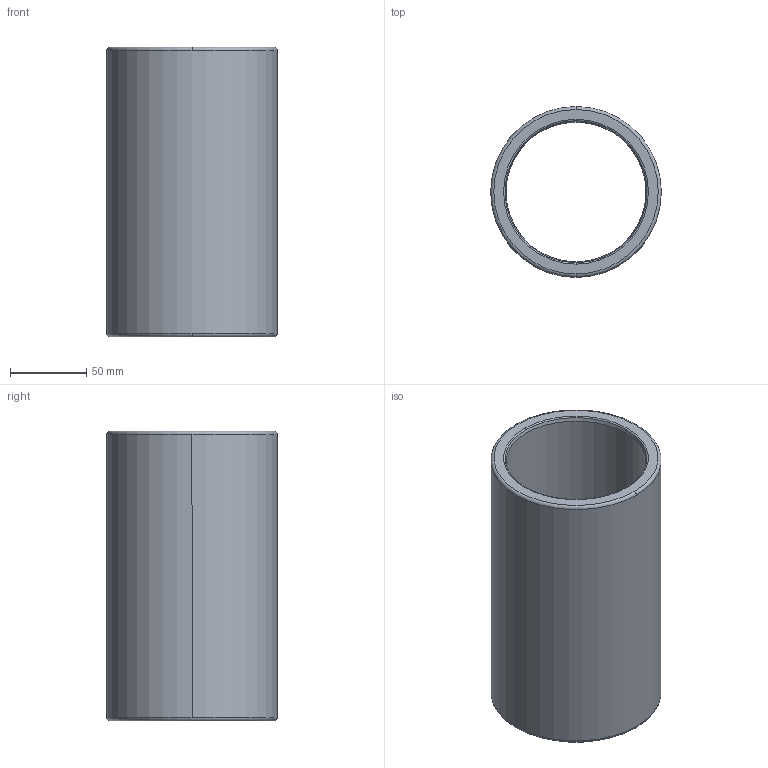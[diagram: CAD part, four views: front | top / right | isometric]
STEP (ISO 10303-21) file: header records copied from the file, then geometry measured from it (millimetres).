
FILE_DESCRIPTION((''),'2;1');
FILE_NAME('B30_080_190.stp','2009-01-12T10:32:01',(''),(''),'Mechanical Desktop 2009','Mechanical Desktop 2009',', , ');
FILE_SCHEMA(('CONFIG_CONTROL_DESIGN'));
Length unit declared in the file: millimetre
Products named in the file (2): Product; blmdl1
Assembly tree (1 placements, depth 2):
  Product
    blmdl1
Bounding box: 111.98 x 111.98 x 190 mm (x, y, z)
Volume: 607976.3 mm3; surface area: 127017.5 mm2
Topology: 1 solids, 1 shells, 18 faces, 48 edges, 32 vertices
Faces by surface type: torus 8, cylinder 4, cone 4, plane 2
Entity records: 705 total; most frequent: DIRECTION 128, CARTESIAN_POINT 100, ORIENTED_EDGE 96, AXIS2_PLACEMENT_3D 60, EDGE_CURVE 48, CIRCLE 40, VERTEX_POINT 32, EDGE_LOOP 20
